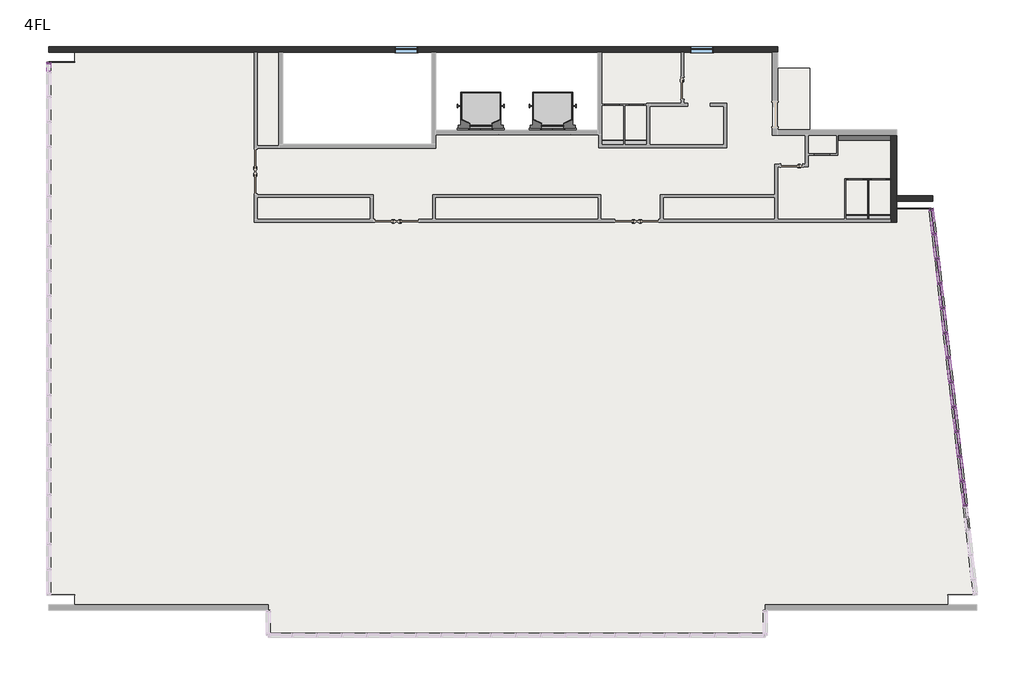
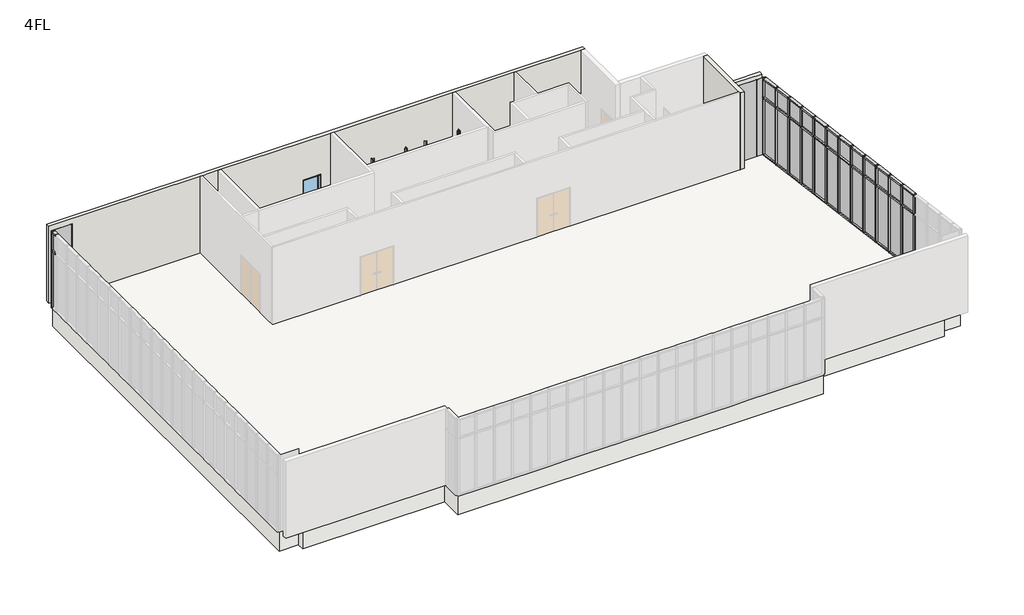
# One storey, part 4 of 4: 67 members, 28 plates, 8 proxies, 5 walls, 4 flow terminals, 2 slabs, 2 windows.
"""IFC4 building model written with IfcOpenShell, lengths in millimetres."""

from ifc_helpers import new_model, si_unit, frame, origin, place, context, project, spatial, polyline, outline, extrude, faceted_brep, transform, mapped, element, save
from components import specialty_equipment_d755c605, d150_h1500_9903e80e, w550_h2000_5054dc5e, w600_h2000_381ad4ff, flow_terminal_205c4ddb, member_70x150_cdd4dcf9, member_70x150_66cf63de, member_70x150_26475b18, member_70x150_ad4265bc, member_70x150_1b280ac3, member_70x150_76429c73, member_70x150_a15bb337, member_70x150_da24903b, plate_d1366ea1, plate_ab860a3c, plate_97be90fd, plate_28587fd3, plate_396bcf3c, w800_h1100_2b598eca

model = new_model("IFC4")

# Units and contexts
model_context = context("Model", 3, world=origin())
ifc_project = project(units=[si_unit("LENGTHUNIT", "METRE", prefix="MILLI")], contexts=[model_context])

# Site, building, storey
site = spatial("IfcSite", under=ifc_project)
building = spatial("IfcBuilding", under=site)
storey = spatial("IfcBuildingStorey", under=building, Name="4FL", Elevation=12600.0)

# Proxies
placement = place(None, origin())
specialty_equipment_shape = specialty_equipment_d755c605(model_context)
element("IfcBuildingElementProxy", 1, Name="エレベーター : 9人乗", ObjectType="エレベーター : 9人乗", at=placement, inside=storey, context=model_context, shape_type="MappedRepresentation", body=[
    mapped(specialty_equipment_shape, transform((-11220.9784025, 13649.6868987, 12600.0), x_axis=(1.0, 0.0, 0.0), y_axis=(0.0, 1.0, 0.0), z_axis=(0.0, 0.0, 1.0))),
])
element("IfcBuildingElementProxy", 2, Name="エレベーター : 9人乗", ObjectType="エレベーター : 9人乗", at=placement, inside=storey, context=model_context, shape_type="MappedRepresentation", body=[
    mapped(specialty_equipment_shape, transform((-13820.9784025, 13649.6868987, 12600.0), x_axis=(1.0, 0.0, 0.0), y_axis=(0.0, 1.0, 0.0), z_axis=(0.0, 0.0, 1.0))),
])
d150_h1500_shape = d150_h1500_9903e80e(model_context)
element("IfcBuildingElementProxy", 3, Name="r ライニング : D150 H1500", ObjectType="r ライニング : D150 H1500", at=placement, inside=storey, context=model_context, shape_type="MappedRepresentation", body=[
    mapped(d150_h1500_shape, transform((-736.1600971, 13521.6596024, 12600.0), x_axis=(1.0, 0.0, 0.0), y_axis=(0.0, 1.0, 0.0), z_axis=(0.0, 0.0, 1.0))),
])
w550_h2000_shape = w550_h2000_5054dc5e(model_context)
element("IfcBuildingElementProxy", 4, Name="r トイレブース扉 : W550 H2000", ObjectType="r トイレブース扉 : W550 H2000", at=placement, inside=storey, context=model_context, shape_type="MappedRepresentation", body=[
    mapped(w550_h2000_shape, transform((-8823.4784025, 14649.6868987, 12600.0), x_axis=(-1.0, 0.0, 0.0), y_axis=(0.0, -1.0, 0.0), z_axis=(0.0, 0.0, 1.0))),
])
element("IfcBuildingElementProxy", 5, Name="r トイレブース扉 : W550 H2000", ObjectType="r トイレブース扉 : W550 H2000", at=placement, inside=storey, context=model_context, shape_type="MappedRepresentation", body=[
    mapped(w550_h2000_shape, transform((-7940.9784025, 14649.6868987, 12600.0), x_axis=(-1.0, 0.0, 0.0), y_axis=(0.0, -1.0, 0.0), z_axis=(0.0, 0.0, 1.0))),
])
element("IfcBuildingElementProxy", 6, Name="r トイレブース扉 : W550 H2000", ObjectType="r トイレブース扉 : W550 H2000", at=placement, inside=storey, context=model_context, shape_type="MappedRepresentation", body=[
    mapped(w550_h2000_shape, transform((-5.9784025, 11949.6868987, 12600.0), x_axis=(-1.0, 0.0, 0.0), y_axis=(0.0, -1.0, 0.0), z_axis=(0.0, 0.0, 1.0))),
])
element("IfcBuildingElementProxy", 7, Name="r トイレブース扉 : W550 H2000", ObjectType="r トイレブース扉 : W550 H2000", at=placement, inside=storey, context=model_context, shape_type="MappedRepresentation", body=[
    mapped(w550_h2000_shape, transform((834.0215975, 11949.6868987, 12600.0), x_axis=(-1.0, 0.0, 0.0), y_axis=(0.0, -1.0, 0.0), z_axis=(0.0, 0.0, 1.0))),
])
w600_h2000_shape = w600_h2000_381ad4ff(model_context)
element("IfcBuildingElementProxy", 8, Name="r トイレブース扉 : W600 H2000", ObjectType="r トイレブース扉 : W600 H2000", at=placement, inside=storey, context=model_context, shape_type="MappedRepresentation", body=[
    mapped(w600_h2000_shape, transform((-1220.9784025, 12849.6868987, 12600.0), x_axis=(-1.0, 0.0, 0.0), y_axis=(0.0, -1.0, 0.0), z_axis=(0.0, 0.0, 1.0))),
])

# Flow terminals
flow_terminal_shape = flow_terminal_205c4ddb(model_context)
element("IfcFlowTerminal", 9, ObjectType="洋式便器 - ライニング付 - 2D : タイプ 1", at=placement, inside=storey, context=model_context, shape_type="MappedRepresentation", body=[
    mapped(flow_terminal_shape, transform((-9045.9784025, 13149.6868987, 12600.0), x_axis=(1.0, 0.0, 0.0), y_axis=(0.0, 1.0, 0.0), z_axis=(0.0, 0.0, 1.0))),
])
element("IfcFlowTerminal", 10, ObjectType="洋式便器 - ライニング付 - 2D : タイプ 1", at=placement, inside=storey, context=model_context, shape_type="MappedRepresentation", body=[
    mapped(flow_terminal_shape, transform((-8205.9784025, 13149.6868987, 12600.0), x_axis=(1.0, 0.0, 0.0), y_axis=(0.0, 1.0, 0.0), z_axis=(0.0, 0.0, 1.0))),
])
element("IfcFlowTerminal", 11, ObjectType="洋式便器 - ライニング付 - 2D : タイプ 1", at=placement, inside=storey, context=model_context, shape_type="MappedRepresentation", body=[
    mapped(flow_terminal_shape, transform((-210.9784025, 10449.6868987, 12600.0), x_axis=(1.0, 0.0, 0.0), y_axis=(0.0, 1.0, 0.0), z_axis=(0.0, 0.0, 1.0))),
])
element("IfcFlowTerminal", 12, ObjectType="洋式便器 - ライニング付 - 2D : タイプ 1", at=placement, inside=storey, context=model_context, shape_type="MappedRepresentation", body=[
    mapped(flow_terminal_shape, transform((629.0215975, 10449.6868987, 12600.0), x_axis=(1.0, 0.0, 0.0), y_axis=(0.0, 1.0, 0.0), z_axis=(0.0, 0.0, 1.0))),
])

# Members
member_70x150_shape = member_70x150_cdd4dcf9(model_context)
element("IfcMember", 13, ObjectType="長方形のマリオン : 70x150", at=placement, inside=storey, context=model_context, shape_type="MappedRepresentation", body=[
    mapped(member_70x150_shape, transform((3840.8083387, 134.7603905, 12600.0), x_axis=(0.11354659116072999, -0.9935326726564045, 0.0), y_axis=(-0.9935326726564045, -0.11354659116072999, 0.0), z_axis=(0.0, 0.0, -1.0))),
])
element("IfcMember", 14, ObjectType="長方形のマリオン : 70x150", at=placement, inside=storey, context=model_context, shape_type="MappedRepresentation", body=[
    mapped(member_70x150_shape, transform((3738.6164066, 1028.9397959, 12600.0), x_axis=(0.11354659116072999, -0.9935326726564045, 0.0), y_axis=(-0.9935326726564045, -0.11354659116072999, 0.0), z_axis=(0.0, 0.0, -1.0))),
])
element("IfcMember", 15, ObjectType="長方形のマリオン : 70x150", at=placement, inside=storey, context=model_context, shape_type="MappedRepresentation", body=[
    mapped(member_70x150_shape, transform((3636.4244746, 1923.1192013, 12600.0), x_axis=(0.11354659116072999, -0.9935326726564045, 0.0), y_axis=(-0.9935326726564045, -0.11354659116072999, 0.0), z_axis=(0.0, 0.0, -1.0))),
])
element("IfcMember", 16, ObjectType="長方形のマリオン : 70x150", at=placement, inside=storey, context=model_context, shape_type="MappedRepresentation", body=[
    mapped(member_70x150_shape, transform((3534.2325425, 2817.2986066, 12600.0), x_axis=(0.11354659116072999, -0.9935326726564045, 0.0), y_axis=(-0.9935326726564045, -0.11354659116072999, 0.0), z_axis=(0.0, 0.0, -1.0))),
])
element("IfcMember", 17, ObjectType="長方形のマリオン : 70x150", at=placement, inside=storey, context=model_context, shape_type="MappedRepresentation", body=[
    mapped(member_70x150_shape, transform((3432.0406105, 3711.478012, 12600.0), x_axis=(0.11354659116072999, -0.9935326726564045, 0.0), y_axis=(-0.9935326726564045, -0.11354659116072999, 0.0), z_axis=(0.0, 0.0, -1.0))),
])
element("IfcMember", 18, ObjectType="長方形のマリオン : 70x150", at=placement, inside=storey, context=model_context, shape_type="MappedRepresentation", body=[
    mapped(member_70x150_shape, transform((3329.8486784, 4605.6574174, 12600.0), x_axis=(0.11354659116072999, -0.9935326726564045, 0.0), y_axis=(-0.9935326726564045, -0.11354659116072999, 0.0), z_axis=(0.0, 0.0, -1.0))),
])
element("IfcMember", 19, ObjectType="長方形のマリオン : 70x150", at=placement, inside=storey, context=model_context, shape_type="MappedRepresentation", body=[
    mapped(member_70x150_shape, transform((3227.6567464, 5499.8368228, 12600.0), x_axis=(0.11354659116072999, -0.9935326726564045, 0.0), y_axis=(-0.9935326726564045, -0.11354659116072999, 0.0), z_axis=(0.0, 0.0, -1.0))),
])
element("IfcMember", 20, ObjectType="長方形のマリオン : 70x150", at=placement, inside=storey, context=model_context, shape_type="MappedRepresentation", body=[
    mapped(member_70x150_shape, transform((3125.4648143, 6394.0162282, 12600.0), x_axis=(0.11354659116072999, -0.9935326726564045, 0.0), y_axis=(-0.9935326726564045, -0.11354659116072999, 0.0), z_axis=(0.0, 0.0, -1.0))),
])
element("IfcMember", 21, ObjectType="長方形のマリオン : 70x150", at=placement, inside=storey, context=model_context, shape_type="MappedRepresentation", body=[
    mapped(member_70x150_shape, transform((3023.2728823, 7288.1956336, 12600.0), x_axis=(0.11354659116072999, -0.9935326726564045, 0.0), y_axis=(-0.9935326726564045, -0.11354659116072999, 0.0), z_axis=(0.0, 0.0, -1.0))),
])
element("IfcMember", 22, ObjectType="長方形のマリオン : 70x150", at=placement, inside=storey, context=model_context, shape_type="MappedRepresentation", body=[
    mapped(member_70x150_shape, transform((2921.0809503, 8182.375039, 12600.0), x_axis=(0.11354659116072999, -0.9935326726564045, 0.0), y_axis=(-0.9935326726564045, -0.11354659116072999, 0.0), z_axis=(0.0, 0.0, -1.0))),
])
element("IfcMember", 23, ObjectType="長方形のマリオン : 70x150", at=placement, inside=storey, context=model_context, shape_type="MappedRepresentation", body=[
    mapped(member_70x150_shape, transform((2818.8890182, 9076.5544444, 12600.0), x_axis=(0.11354659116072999, -0.9935326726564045, 0.0), y_axis=(-0.9935326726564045, -0.11354659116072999, 0.0), z_axis=(0.0, 0.0, -1.0))),
])
element("IfcMember", 24, ObjectType="長方形のマリオン : 70x150", at=placement, inside=storey, context=model_context, shape_type="MappedRepresentation", body=[
    mapped(member_70x150_shape, transform((2716.6970862, 9970.7338498, 12600.0), x_axis=(0.11354659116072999, -0.9935326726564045, 0.0), y_axis=(-0.9935326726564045, -0.11354659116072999, 0.0), z_axis=(0.0, 0.0, -1.0))),
])
member_70x150_2_shape = member_70x150_66cf63de(model_context)
element("IfcMember", 25, ObjectType="長方形のマリオン : 70x150", at=placement, inside=storey, context=model_context, shape_type="MappedRepresentation", body=[
    mapped(member_70x150_2_shape, transform((2618.4792848, 10830.1396116, 12600.0), x_axis=(0.0, 0.0, -1.0), y_axis=(-0.9935326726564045, -0.11354659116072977, 0.0), z_axis=(-0.11354659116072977, 0.9935326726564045, 0.0))),
])
element("IfcMember", 26, ObjectType="長方形のマリオン : 70x150", at=placement, inside=storey, context=model_context, shape_type="MappedRepresentation", body=[
    mapped(member_70x150_2_shape, transform((3844.7824693, 99.9867469, 12600.0), x_axis=(0.0, 0.0, -1.0), y_axis=(-0.9935326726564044, -0.11354659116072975, 0.0), z_axis=(-0.11354659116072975, 0.9935326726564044, 0.0))),
])
element("IfcMember", 27, ObjectType="長方形のマリオン : 70x150", at=placement, inside=storey, context=model_context, shape_type="MappedRepresentation", body=[
    mapped(member_70x150_2_shape, transform((3742.5905373, 994.1661523, 12600.0), x_axis=(0.0, 0.0, -1.0), y_axis=(-0.9935326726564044, -0.1135465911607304, 0.0), z_axis=(-0.11354659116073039, 0.9935326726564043, 0.0))),
])
element("IfcMember", 28, ObjectType="長方形のマリオン : 70x150", at=placement, inside=storey, context=model_context, shape_type="MappedRepresentation", body=[
    mapped(member_70x150_2_shape, transform((3640.3986053, 1888.3455577, 12600.0), x_axis=(0.0, 0.0, -1.0), y_axis=(-0.9935326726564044, -0.1135465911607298, 0.0), z_axis=(-0.1135465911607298, 0.9935326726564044, 0.0))),
])
element("IfcMember", 29, ObjectType="長方形のマリオン : 70x150", at=placement, inside=storey, context=model_context, shape_type="MappedRepresentation", body=[
    mapped(member_70x150_2_shape, transform((3538.2066732, 2782.5249631, 12600.0), x_axis=(0.0, 0.0, -1.0), y_axis=(-0.9935326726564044, -0.1135465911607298, 0.0), z_axis=(-0.1135465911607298, 0.9935326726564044, 0.0))),
])
element("IfcMember", 30, ObjectType="長方形のマリオン : 70x150", at=placement, inside=storey, context=model_context, shape_type="MappedRepresentation", body=[
    mapped(member_70x150_2_shape, transform((3436.0147412, 3676.7043685, 12600.0), x_axis=(0.0, 0.0, -1.0), y_axis=(-0.9935326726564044, -0.11354659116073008, 0.0), z_axis=(-0.11354659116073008, 0.9935326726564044, 0.0))),
])
element("IfcMember", 31, ObjectType="長方形のマリオン : 70x150", at=placement, inside=storey, context=model_context, shape_type="MappedRepresentation", body=[
    mapped(member_70x150_2_shape, transform((3333.8228091, 4570.8837739, 12600.0), x_axis=(0.0, 0.0, -1.0), y_axis=(-0.9935326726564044, -0.11354659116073, 0.0), z_axis=(-0.11354659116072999, 0.9935326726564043, 0.0))),
])
element("IfcMember", 32, ObjectType="長方形のマリオン : 70x150", at=placement, inside=storey, context=model_context, shape_type="MappedRepresentation", body=[
    mapped(member_70x150_2_shape, transform((3231.6308771, 5465.0631793, 12600.0), x_axis=(0.0, 0.0, -1.0), y_axis=(-0.9935326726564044, -0.11354659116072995, 0.0), z_axis=(-0.11354659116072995, 0.9935326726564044, 0.0))),
])
element("IfcMember", 33, ObjectType="長方形のマリオン : 70x150", at=placement, inside=storey, context=model_context, shape_type="MappedRepresentation", body=[
    mapped(member_70x150_2_shape, transform((3129.438945, 6359.2425847, 12600.0), x_axis=(0.0, 0.0, -1.0), y_axis=(-0.9935326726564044, -0.11354659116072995, 0.0), z_axis=(-0.11354659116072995, 0.9935326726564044, 0.0))),
])
element("IfcMember", 34, ObjectType="長方形のマリオン : 70x150", at=placement, inside=storey, context=model_context, shape_type="MappedRepresentation", body=[
    mapped(member_70x150_2_shape, transform((3027.247013, 7253.4219901, 12600.0), x_axis=(0.0, 0.0, -1.0), y_axis=(-0.9935326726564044, -0.11354659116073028, 0.0), z_axis=(-0.11354659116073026, 0.9935326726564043, 0.0))),
])
element("IfcMember", 35, ObjectType="長方形のマリオン : 70x150", at=placement, inside=storey, context=model_context, shape_type="MappedRepresentation", body=[
    mapped(member_70x150_2_shape, transform((2925.0550809, 8147.6013954, 12600.0), x_axis=(0.0, 0.0, -1.0), y_axis=(-0.9935326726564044, -0.1135465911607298, 0.0), z_axis=(-0.1135465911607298, 0.9935326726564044, 0.0))),
])
element("IfcMember", 36, ObjectType="長方形のマリオン : 70x150", at=placement, inside=storey, context=model_context, shape_type="MappedRepresentation", body=[
    mapped(member_70x150_2_shape, transform((2822.8631489, 9041.7808008, 12600.0), x_axis=(0.0, 0.0, -1.0), y_axis=(-0.9935326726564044, -0.11354659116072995, 0.0), z_axis=(-0.11354659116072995, 0.9935326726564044, 0.0))),
])
element("IfcMember", 37, ObjectType="長方形のマリオン : 70x150", at=placement, inside=storey, context=model_context, shape_type="MappedRepresentation", body=[
    mapped(member_70x150_2_shape, transform((2720.6712169, 9935.9602062, 12600.0), x_axis=(0.0, 0.0, -1.0), y_axis=(-0.9935326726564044, -0.11354659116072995, 0.0), z_axis=(-0.11354659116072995, 0.9935326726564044, 0.0))),
])
element("IfcMember", 38, ObjectType="長方形のマリオン : 70x150", at=placement, inside=storey, context=model_context, shape_type="MappedRepresentation", body=[
    mapped(member_70x150_2_shape, transform((3836.834208, 169.534034, 16600.0), x_axis=(0.0, 0.0, 1.0), y_axis=(-0.9935326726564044, -0.11354659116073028, 0.0), z_axis=(0.11354659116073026, -0.9935326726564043, 0.0))),
])
element("IfcMember", 39, ObjectType="長方形のマリオン : 70x150", at=placement, inside=storey, context=model_context, shape_type="MappedRepresentation", body=[
    mapped(member_70x150_2_shape, transform((3734.6422759, 1063.7134394, 16600.0), x_axis=(0.0, 0.0, 1.0), y_axis=(-0.9935326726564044, -0.11354659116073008, 0.0), z_axis=(0.11354659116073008, -0.9935326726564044, 0.0))),
])
element("IfcMember", 40, ObjectType="長方形のマリオン : 70x150", at=placement, inside=storey, context=model_context, shape_type="MappedRepresentation", body=[
    mapped(member_70x150_2_shape, transform((3632.4503439, 1957.8928448, 16600.0), x_axis=(0.0, 0.0, 1.0), y_axis=(-0.9935326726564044, -0.11354659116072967, 0.0), z_axis=(0.11354659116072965, -0.9935326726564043, 0.0))),
])
element("IfcMember", 41, ObjectType="長方形のマリオン : 70x150", at=placement, inside=storey, context=model_context, shape_type="MappedRepresentation", body=[
    mapped(member_70x150_2_shape, transform((3530.2584118, 2852.0722502, 16600.0), x_axis=(0.0, 0.0, 1.0), y_axis=(-0.9935326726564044, -0.11354659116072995, 0.0), z_axis=(0.11354659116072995, -0.9935326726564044, 0.0))),
])
element("IfcMember", 42, ObjectType="長方形のマリオン : 70x150", at=placement, inside=storey, context=model_context, shape_type="MappedRepresentation", body=[
    mapped(member_70x150_2_shape, transform((3428.0664798, 3746.2516556, 16600.0), x_axis=(0.0, 0.0, 1.0), y_axis=(-0.9935326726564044, -0.11354659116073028, 0.0), z_axis=(0.11354659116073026, -0.9935326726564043, 0.0))),
])
element("IfcMember", 43, ObjectType="長方形のマリオン : 70x150", at=placement, inside=storey, context=model_context, shape_type="MappedRepresentation", body=[
    mapped(member_70x150_2_shape, transform((3325.8745477, 4640.431061, 16600.0), x_axis=(0.0, 0.0, 1.0), y_axis=(-0.9935326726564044, -0.11354659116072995, 0.0), z_axis=(0.11354659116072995, -0.9935326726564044, 0.0))),
])
element("IfcMember", 44, ObjectType="長方形のマリオン : 70x150", at=placement, inside=storey, context=model_context, shape_type="MappedRepresentation", body=[
    mapped(member_70x150_2_shape, transform((3223.6826157, 5534.6104664, 16600.0), x_axis=(0.0, 0.0, 1.0), y_axis=(-0.9935326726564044, -0.11354659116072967, 0.0), z_axis=(0.11354659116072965, -0.9935326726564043, 0.0))),
])
element("IfcMember", 45, ObjectType="長方形のマリオン : 70x150", at=placement, inside=storey, context=model_context, shape_type="MappedRepresentation", body=[
    mapped(member_70x150_2_shape, transform((3121.4906836, 6428.7898717, 16600.0), x_axis=(0.0, 0.0, 1.0), y_axis=(-0.9935326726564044, -0.1135465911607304, 0.0), z_axis=(0.11354659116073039, -0.9935326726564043, 0.0))),
])
element("IfcMember", 46, ObjectType="長方形のマリオン : 70x150", at=placement, inside=storey, context=model_context, shape_type="MappedRepresentation", body=[
    mapped(member_70x150_2_shape, transform((3019.2987516, 7322.9692771, 16600.0), x_axis=(0.0, 0.0, 1.0), y_axis=(-0.9935326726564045, -0.11354659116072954, 0.0), z_axis=(0.11354659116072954, -0.9935326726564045, 0.0))),
])
element("IfcMember", 47, ObjectType="長方形のマリオン : 70x150", at=placement, inside=storey, context=model_context, shape_type="MappedRepresentation", body=[
    mapped(member_70x150_2_shape, transform((2917.1068196, 8217.1486825, 16600.0), x_axis=(0.0, 0.0, 1.0), y_axis=(-0.9935326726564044, -0.11354659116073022, 0.0), z_axis=(0.11354659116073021, -0.9935326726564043, 0.0))),
])
element("IfcMember", 48, ObjectType="長方形のマリオン : 70x150", at=placement, inside=storey, context=model_context, shape_type="MappedRepresentation", body=[
    mapped(member_70x150_2_shape, transform((2814.9148875, 9111.3280879, 16600.0), x_axis=(0.0, 0.0, 1.0), y_axis=(-0.9935326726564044, -0.11354659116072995, 0.0), z_axis=(0.11354659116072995, -0.9935326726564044, 0.0))),
])
element("IfcMember", 49, ObjectType="長方形のマリオン : 70x150", at=placement, inside=storey, context=model_context, shape_type="MappedRepresentation", body=[
    mapped(member_70x150_2_shape, transform((2712.7229555, 10005.5074933, 16600.0), x_axis=(0.0, 0.0, 1.0), y_axis=(-0.9935326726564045, -0.11354659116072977, 0.0), z_axis=(0.11354659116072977, -0.9935326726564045, 0.0))),
])
member_70x150_3_shape = member_70x150_26475b18(model_context)
element("IfcMember", 50, ObjectType="長方形のマリオン : 70x150", at=placement, inside=storey, context=model_context, shape_type="MappedRepresentation", body=[
    mapped(member_70x150_3_shape, transform((3534.2325425, 2817.2986066, 15600.0), x_axis=(0.11354659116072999, -0.9935326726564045, 0.0), y_axis=(-0.9935326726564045, -0.11354659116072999, 0.0), z_axis=(0.0, 0.0, -1.0))),
])
element("IfcMember", 51, ObjectType="長方形のマリオン : 70x150", at=placement, inside=storey, context=model_context, shape_type="MappedRepresentation", body=[
    mapped(member_70x150_3_shape, transform((3636.4244746, 1923.1192013, 15600.0), x_axis=(0.11354659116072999, -0.9935326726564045, 0.0), y_axis=(-0.9935326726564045, -0.11354659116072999, 0.0), z_axis=(0.0, 0.0, -1.0))),
])
element("IfcMember", 52, ObjectType="長方形のマリオン : 70x150", at=placement, inside=storey, context=model_context, shape_type="MappedRepresentation", body=[
    mapped(member_70x150_3_shape, transform((3738.6164066, 1028.9397959, 15600.0), x_axis=(0.11354659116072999, -0.9935326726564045, 0.0), y_axis=(-0.9935326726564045, -0.11354659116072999, 0.0), z_axis=(0.0, 0.0, -1.0))),
])
element("IfcMember", 53, ObjectType="長方形のマリオン : 70x150", at=placement, inside=storey, context=model_context, shape_type="MappedRepresentation", body=[
    mapped(member_70x150_3_shape, transform((3840.8083387, 134.7603905, 15600.0), x_axis=(0.11354659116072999, -0.9935326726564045, 0.0), y_axis=(-0.9935326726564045, -0.11354659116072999, 0.0), z_axis=(0.0, 0.0, -1.0))),
])
element("IfcMember", 54, ObjectType="長方形のマリオン : 70x150", at=placement, inside=storey, context=model_context, shape_type="MappedRepresentation", body=[
    mapped(member_70x150_3_shape, transform((3432.0406105, 3711.478012, 15600.0), x_axis=(0.11354659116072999, -0.9935326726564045, 0.0), y_axis=(-0.9935326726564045, -0.11354659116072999, 0.0), z_axis=(0.0, 0.0, -1.0))),
])
element("IfcMember", 55, ObjectType="長方形のマリオン : 70x150", at=placement, inside=storey, context=model_context, shape_type="MappedRepresentation", body=[
    mapped(member_70x150_3_shape, transform((3329.8486784, 4605.6574174, 15600.0), x_axis=(0.11354659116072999, -0.9935326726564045, 0.0), y_axis=(-0.9935326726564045, -0.11354659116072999, 0.0), z_axis=(0.0, 0.0, -1.0))),
])
element("IfcMember", 56, ObjectType="長方形のマリオン : 70x150", at=placement, inside=storey, context=model_context, shape_type="MappedRepresentation", body=[
    mapped(member_70x150_3_shape, transform((3227.6567464, 5499.8368228, 15600.0), x_axis=(0.11354659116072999, -0.9935326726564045, 0.0), y_axis=(-0.9935326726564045, -0.11354659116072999, 0.0), z_axis=(0.0, 0.0, -1.0))),
])
element("IfcMember", 57, ObjectType="長方形のマリオン : 70x150", at=placement, inside=storey, context=model_context, shape_type="MappedRepresentation", body=[
    mapped(member_70x150_3_shape, transform((3125.4648143, 6394.0162282, 15600.0), x_axis=(0.11354659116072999, -0.9935326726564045, 0.0), y_axis=(-0.9935326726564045, -0.11354659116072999, 0.0), z_axis=(0.0, 0.0, -1.0))),
])
element("IfcMember", 58, ObjectType="長方形のマリオン : 70x150", at=placement, inside=storey, context=model_context, shape_type="MappedRepresentation", body=[
    mapped(member_70x150_3_shape, transform((3023.2728823, 7288.1956336, 15600.0), x_axis=(0.11354659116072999, -0.9935326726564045, 0.0), y_axis=(-0.9935326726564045, -0.11354659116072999, 0.0), z_axis=(0.0, 0.0, -1.0))),
])
element("IfcMember", 59, ObjectType="長方形のマリオン : 70x150", at=placement, inside=storey, context=model_context, shape_type="MappedRepresentation", body=[
    mapped(member_70x150_3_shape, transform((2921.0809503, 8182.375039, 15600.0), x_axis=(0.11354659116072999, -0.9935326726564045, 0.0), y_axis=(-0.9935326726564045, -0.11354659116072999, 0.0), z_axis=(0.0, 0.0, -1.0))),
])
element("IfcMember", 60, ObjectType="長方形のマリオン : 70x150", at=placement, inside=storey, context=model_context, shape_type="MappedRepresentation", body=[
    mapped(member_70x150_3_shape, transform((2818.8890182, 9076.5544444, 15600.0), x_axis=(0.11354659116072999, -0.9935326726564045, 0.0), y_axis=(-0.9935326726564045, -0.11354659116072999, 0.0), z_axis=(0.0, 0.0, -1.0))),
])
element("IfcMember", 61, ObjectType="長方形のマリオン : 70x150", at=placement, inside=storey, context=model_context, shape_type="MappedRepresentation", body=[
    mapped(member_70x150_3_shape, transform((2716.6970862, 9970.7338498, 15600.0), x_axis=(0.11354659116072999, -0.9935326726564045, 0.0), y_axis=(-0.9935326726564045, -0.11354659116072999, 0.0), z_axis=(0.0, 0.0, -1.0))),
])
member_70x150_4_shape = member_70x150_ad4265bc(model_context)
element("IfcMember", 62, ObjectType="長方形のマリオン : 70x150", at=placement, inside=storey, context=model_context, shape_type="MappedRepresentation", body=[
    mapped(member_70x150_4_shape, transform((3223.6826157, 5534.6104664, 15600.0), x_axis=(0.0, 0.0, 1.0), y_axis=(-0.9935326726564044, -0.11354659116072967, 0.0), z_axis=(0.11354659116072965, -0.9935326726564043, 0.0))),
])
element("IfcMember", 63, ObjectType="長方形のマリオン : 70x150", at=placement, inside=storey, context=model_context, shape_type="MappedRepresentation", body=[
    mapped(member_70x150_4_shape, transform((3121.4906836, 6428.7898717, 15600.0), x_axis=(0.0, 0.0, 1.0), y_axis=(-0.9935326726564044, -0.1135465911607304, 0.0), z_axis=(0.11354659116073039, -0.9935326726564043, 0.0))),
])
element("IfcMember", 64, ObjectType="長方形のマリオン : 70x150", at=placement, inside=storey, context=model_context, shape_type="MappedRepresentation", body=[
    mapped(member_70x150_4_shape, transform((3019.2987516, 7322.9692771, 15600.0), x_axis=(0.0, 0.0, 1.0), y_axis=(-0.9935326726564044, -0.11354659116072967, 0.0), z_axis=(0.11354659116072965, -0.9935326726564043, 0.0))),
])
element("IfcMember", 65, ObjectType="長方形のマリオン : 70x150", at=placement, inside=storey, context=model_context, shape_type="MappedRepresentation", body=[
    mapped(member_70x150_4_shape, transform((2917.1068196, 8217.1486825, 15600.0), x_axis=(0.0, 0.0, 1.0), y_axis=(-0.9935326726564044, -0.11354659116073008, 0.0), z_axis=(0.11354659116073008, -0.9935326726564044, 0.0))),
])
element("IfcMember", 66, ObjectType="長方形のマリオン : 70x150", at=placement, inside=storey, context=model_context, shape_type="MappedRepresentation", body=[
    mapped(member_70x150_4_shape, transform((2814.9148875, 9111.3280879, 15600.0), x_axis=(0.0, 0.0, 1.0), y_axis=(-0.9935326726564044, -0.11354659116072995, 0.0), z_axis=(0.11354659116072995, -0.9935326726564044, 0.0))),
])
element("IfcMember", 67, ObjectType="長方形のマリオン : 70x150", at=placement, inside=storey, context=model_context, shape_type="MappedRepresentation", body=[
    mapped(member_70x150_4_shape, transform((2712.7229555, 10005.5074933, 15600.0), x_axis=(0.0, 0.0, 1.0), y_axis=(-0.9935326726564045, -0.11354659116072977, 0.0), z_axis=(0.11354659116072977, -0.9935326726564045, 0.0))),
])
element("IfcMember", 68, ObjectType="長方形のマリオン : 70x150", at=placement, inside=storey, context=model_context, shape_type="MappedRepresentation", body=[
    mapped(member_70x150_4_shape, transform((3836.834208, 169.534034, 15600.0), x_axis=(0.0, 0.0, 1.0), y_axis=(-0.9935326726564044, -0.11354659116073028, 0.0), z_axis=(0.11354659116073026, -0.9935326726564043, 0.0))),
])
element("IfcMember", 69, ObjectType="長方形のマリオン : 70x150", at=placement, inside=storey, context=model_context, shape_type="MappedRepresentation", body=[
    mapped(member_70x150_4_shape, transform((3734.6422759, 1063.7134394, 15600.0), x_axis=(0.0, 0.0, 1.0), y_axis=(-0.9935326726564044, -0.11354659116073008, 0.0), z_axis=(0.11354659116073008, -0.9935326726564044, 0.0))),
])
element("IfcMember", 70, ObjectType="長方形のマリオン : 70x150", at=placement, inside=storey, context=model_context, shape_type="MappedRepresentation", body=[
    mapped(member_70x150_4_shape, transform((3632.4503439, 1957.8928448, 15600.0), x_axis=(0.0, 0.0, 1.0), y_axis=(-0.9935326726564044, -0.11354659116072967, 0.0), z_axis=(0.11354659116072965, -0.9935326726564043, 0.0))),
])
element("IfcMember", 71, ObjectType="長方形のマリオン : 70x150", at=placement, inside=storey, context=model_context, shape_type="MappedRepresentation", body=[
    mapped(member_70x150_4_shape, transform((3530.2584118, 2852.0722502, 15600.0), x_axis=(0.0, 0.0, 1.0), y_axis=(-0.9935326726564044, -0.11354659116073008, 0.0), z_axis=(0.11354659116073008, -0.9935326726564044, 0.0))),
])
element("IfcMember", 72, ObjectType="長方形のマリオン : 70x150", at=placement, inside=storey, context=model_context, shape_type="MappedRepresentation", body=[
    mapped(member_70x150_4_shape, transform((3428.0664798, 3746.2516556, 15600.0), x_axis=(0.0, 0.0, 1.0), y_axis=(-0.9935326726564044, -0.11354659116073, 0.0), z_axis=(0.11354659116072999, -0.9935326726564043, 0.0))),
])
element("IfcMember", 73, ObjectType="長方形のマリオン : 70x150", at=placement, inside=storey, context=model_context, shape_type="MappedRepresentation", body=[
    mapped(member_70x150_4_shape, transform((3325.8745477, 4640.431061, 15600.0), x_axis=(0.0, 0.0, 1.0), y_axis=(-0.9935326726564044, -0.11354659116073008, 0.0), z_axis=(0.11354659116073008, -0.9935326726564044, 0.0))),
])
member_70x150_5_shape = member_70x150_1b280ac3(model_context)
element("IfcMember", 74, ObjectType="長方形のマリオン : 70x150", at=placement, inside=storey, context=model_context, shape_type="MappedRepresentation", body=[
    mapped(member_70x150_5_shape, transform((-29345.9784025, 16199.6868987, 12600.0), x_axis=(0.0, 1.0, 0.0), y_axis=(1.0, 0.0, 0.0), z_axis=(0.0, 0.0, -1.0))),
])
member_70x150_6_shape = member_70x150_76429c73(model_context)
element("IfcMember", 75, ObjectType="長方形のマリオン : 70x150", at=placement, inside=storey, context=model_context, shape_type="MappedRepresentation", body=[
    mapped(member_70x150_6_shape, transform((2610.5310234, 10899.6868987, 16600.0), x_axis=(-0.11354659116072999, 0.9935326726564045, 0.0), y_axis=(-0.9935326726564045, -0.11354659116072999, 0.0), z_axis=(0.0, 0.0, 1.0))),
])
element("IfcMember", 76, ObjectType="長方形のマリオン : 70x150", at=placement, inside=storey, context=model_context, shape_type="MappedRepresentation", body=[
    mapped(member_70x150_6_shape, transform((-29345.9784025, 16199.6868987, 15600.0), x_axis=(0.0, 1.0, 0.0), y_axis=(1.0, 0.0, 0.0), z_axis=(0.0, 0.0, -1.0))),
])
element("IfcMember", 77, ObjectType="長方形のマリオン : 70x150", at=placement, inside=storey, context=model_context, shape_type="MappedRepresentation", body=[
    mapped(member_70x150_5_shape, transform((2610.5310234, 10899.6868987, 15600.0), x_axis=(-0.11354659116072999, 0.9935326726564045, 0.0), y_axis=(-0.9935326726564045, -0.11354659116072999, 0.0), z_axis=(0.0, 0.0, 1.0))),
])
member_70x150_7_shape = member_70x150_a15bb337(model_context)
element("IfcMember", 78, ObjectType="長方形のマリオン : 70x150", at=placement, inside=storey, context=model_context, shape_type="MappedRepresentation", body=[
    mapped(member_70x150_7_shape, transform((-29345.9784025, 16129.6868987, 16600.0), x_axis=(0.0, 0.0, 1.0), y_axis=(1.0, 0.0, 0.0), z_axis=(0.0, 1.0, 0.0))),
])
member_70x150_8_shape = member_70x150_da24903b(model_context)
element("IfcMember", 79, ObjectType="長方形のマリオン : 70x150", at=placement, inside=storey, context=model_context, shape_type="MappedRepresentation", body=[
    mapped(member_70x150_8_shape, transform((-29345.9784025, 16129.6868987, 15600.0), x_axis=(0.0, 0.0, 1.0), y_axis=(1.0, 0.0, 0.0), z_axis=(0.0, 1.0, 0.0))),
])

# Plates
plate_shape = plate_d1366ea1(model_context)
element("IfcPlate", 80, ObjectType="システム パネル : 標準", at=placement, inside=storey, context=model_context, shape_type="MappedRepresentation", body=[
    mapped(plate_shape, transform((1804.0215975, 10899.6868987, 12600.0), x_axis=(1.0, 0.0, 0.0), y_axis=(0.0, 1.0, 0.0), z_axis=(0.0, 0.0, 1.0))),
])
element("IfcPlate", 81, ObjectType="システム パネル : 標準", at=placement, inside=storey, context=model_context, shape_type="MappedRepresentation", body=[
    mapped(plate_shape, transform((-28895.9784025, 16199.6868987, 12600.0), x_axis=(1.0, 0.0, 0.0), y_axis=(0.0, 1.0, 0.0), z_axis=(0.0, 0.0, 1.0))),
])
plate_2_shape = plate_ab860a3c(model_context)
element("IfcPlate", 82, ObjectType="システム パネル : 標準", at=placement, inside=storey, context=model_context, shape_type="MappedRepresentation", body=[
    mapped(plate_2_shape, transform((-28420.9784025, 16199.6868987, 12600.0), x_axis=(1.0, 0.0, 0.0), y_axis=(0.0, 1.0, 0.0), z_axis=(0.0, 0.0, 1.0))),
])
plate_3_shape = plate_97be90fd(model_context)
element("IfcPlate", 83, ObjectType="システム パネル : 標準", at=placement, inside=storey, context=model_context, shape_type="MappedRepresentation", body=[
    mapped(plate_3_shape, transform((2432.2763105, 10899.6868987, 12600.0), x_axis=(1.0, 0.0, 0.0), y_axis=(0.0, 1.0, 0.0), z_axis=(0.0, 0.0, 1.0))),
])
plate_4_shape = plate_28587fd3(model_context)
element("IfcPlate", 84, ObjectType="システム パネル : 標準", at=placement, inside=storey, context=model_context, shape_type="MappedRepresentation", body=[
    mapped(plate_4_shape, transform((2665.6011201, 10417.8235525, 12670.0), x_axis=(0.11354659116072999, -0.9935326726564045, 0.0), y_axis=(0.9935326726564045, 0.11354659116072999, 0.0), z_axis=(0.0, 0.0, 1.0))),
])
element("IfcPlate", 85, ObjectType="システム パネル : 標準", at=placement, inside=storey, context=model_context, shape_type="MappedRepresentation", body=[
    mapped(plate_4_shape, transform((2767.7930522, 9523.6441471, 12670.0), x_axis=(0.11354659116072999, -0.9935326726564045, 0.0), y_axis=(0.9935326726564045, 0.11354659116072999, 0.0), z_axis=(0.0, 0.0, 1.0))),
])
element("IfcPlate", 86, ObjectType="システム パネル : 標準", at=placement, inside=storey, context=model_context, shape_type="MappedRepresentation", body=[
    mapped(plate_4_shape, transform((2869.9849842, 8629.4647417, 12670.0), x_axis=(0.11354659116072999, -0.9935326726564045, 0.0), y_axis=(0.9935326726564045, 0.11354659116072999, 0.0), z_axis=(0.0, 0.0, 1.0))),
])
element("IfcPlate", 87, ObjectType="システム パネル : 標準", at=placement, inside=storey, context=model_context, shape_type="MappedRepresentation", body=[
    mapped(plate_4_shape, transform((2972.1769163, 7735.2853363, 12670.0), x_axis=(0.11354659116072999, -0.9935326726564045, 0.0), y_axis=(0.9935326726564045, 0.11354659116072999, 0.0), z_axis=(0.0, 0.0, 1.0))),
])
element("IfcPlate", 88, ObjectType="システム パネル : 標準", at=placement, inside=storey, context=model_context, shape_type="MappedRepresentation", body=[
    mapped(plate_4_shape, transform((3074.3688483, 6841.1059309, 12670.0), x_axis=(0.11354659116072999, -0.9935326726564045, 0.0), y_axis=(0.9935326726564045, 0.11354659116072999, 0.0), z_axis=(0.0, 0.0, 1.0))),
])
element("IfcPlate", 89, ObjectType="システム パネル : 標準", at=placement, inside=storey, context=model_context, shape_type="MappedRepresentation", body=[
    mapped(plate_4_shape, transform((3176.5607804, 5946.9265255, 12670.0), x_axis=(0.11354659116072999, -0.9935326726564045, 0.0), y_axis=(0.9935326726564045, 0.11354659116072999, 0.0), z_axis=(0.0, 0.0, 1.0))),
])
element("IfcPlate", 90, ObjectType="システム パネル : 標準", at=placement, inside=storey, context=model_context, shape_type="MappedRepresentation", body=[
    mapped(plate_4_shape, transform((3278.7527124, 5052.7471201, 12670.0), x_axis=(0.11354659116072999, -0.9935326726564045, 0.0), y_axis=(0.9935326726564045, 0.11354659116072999, 0.0), z_axis=(0.0, 0.0, 1.0))),
])
element("IfcPlate", 91, ObjectType="システム パネル : 標準", at=placement, inside=storey, context=model_context, shape_type="MappedRepresentation", body=[
    mapped(plate_4_shape, transform((3380.9446445, 4158.5677147, 12670.0), x_axis=(0.11354659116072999, -0.9935326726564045, 0.0), y_axis=(0.9935326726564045, 0.11354659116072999, 0.0), z_axis=(0.0, 0.0, 1.0))),
])
element("IfcPlate", 92, ObjectType="システム パネル : 標準", at=placement, inside=storey, context=model_context, shape_type="MappedRepresentation", body=[
    mapped(plate_4_shape, transform((3483.1365765, 3264.3883093, 12670.0), x_axis=(0.11354659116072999, -0.9935326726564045, 0.0), y_axis=(0.9935326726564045, 0.11354659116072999, 0.0), z_axis=(0.0, 0.0, 1.0))),
])
element("IfcPlate", 93, ObjectType="システム パネル : 標準", at=placement, inside=storey, context=model_context, shape_type="MappedRepresentation", body=[
    mapped(plate_4_shape, transform((3585.3285085, 2370.2089039, 12670.0), x_axis=(0.11354659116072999, -0.9935326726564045, 0.0), y_axis=(0.9935326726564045, 0.11354659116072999, 0.0), z_axis=(0.0, 0.0, 1.0))),
])
element("IfcPlate", 94, ObjectType="システム パネル : 標準", at=placement, inside=storey, context=model_context, shape_type="MappedRepresentation", body=[
    mapped(plate_4_shape, transform((3687.5204406, 1476.0294986, 12670.0), x_axis=(0.11354659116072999, -0.9935326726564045, 0.0), y_axis=(0.9935326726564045, 0.11354659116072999, 0.0), z_axis=(0.0, 0.0, 1.0))),
])
element("IfcPlate", 95, ObjectType="システム パネル : 標準", at=placement, inside=storey, context=model_context, shape_type="MappedRepresentation", body=[
    mapped(plate_4_shape, transform((3789.7123726, 581.8500932, 12670.0), x_axis=(0.11354659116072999, -0.9935326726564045, 0.0), y_axis=(0.9935326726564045, 0.11354659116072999, 0.0), z_axis=(0.0, 0.0, 1.0))),
])
plate_5_shape = plate_396bcf3c(model_context)
element("IfcPlate", 96, ObjectType="システム パネル : 標準", at=placement, inside=storey, context=model_context, shape_type="MappedRepresentation", body=[
    mapped(plate_5_shape, transform((2665.6011201, 10417.8235525, 15635.0), x_axis=(0.11354659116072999, -0.9935326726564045, 0.0), y_axis=(0.9935326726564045, 0.11354659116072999, 0.0), z_axis=(0.0, 0.0, 1.0))),
])
element("IfcPlate", 97, ObjectType="システム パネル : 標準", at=placement, inside=storey, context=model_context, shape_type="MappedRepresentation", body=[
    mapped(plate_5_shape, transform((2767.7930522, 9523.6441471, 15635.0), x_axis=(0.11354659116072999, -0.9935326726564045, 0.0), y_axis=(0.9935326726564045, 0.11354659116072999, 0.0), z_axis=(0.0, 0.0, 1.0))),
])
element("IfcPlate", 98, ObjectType="システム パネル : 標準", at=placement, inside=storey, context=model_context, shape_type="MappedRepresentation", body=[
    mapped(plate_5_shape, transform((2869.9849842, 8629.4647417, 15635.0), x_axis=(0.11354659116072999, -0.9935326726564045, 0.0), y_axis=(0.9935326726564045, 0.11354659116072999, 0.0), z_axis=(0.0, 0.0, 1.0))),
])
element("IfcPlate", 99, ObjectType="システム パネル : 標準", at=placement, inside=storey, context=model_context, shape_type="MappedRepresentation", body=[
    mapped(plate_5_shape, transform((2972.1769163, 7735.2853363, 15635.0), x_axis=(0.11354659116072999, -0.9935326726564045, 0.0), y_axis=(0.9935326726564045, 0.11354659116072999, 0.0), z_axis=(0.0, 0.0, 1.0))),
])
element("IfcPlate", 100, ObjectType="システム パネル : 標準", at=placement, inside=storey, context=model_context, shape_type="MappedRepresentation", body=[
    mapped(plate_5_shape, transform((3074.3688483, 6841.1059309, 15635.0), x_axis=(0.11354659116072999, -0.9935326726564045, 0.0), y_axis=(0.9935326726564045, 0.11354659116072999, 0.0), z_axis=(0.0, 0.0, 1.0))),
])
element("IfcPlate", 101, ObjectType="システム パネル : 標準", at=placement, inside=storey, context=model_context, shape_type="MappedRepresentation", body=[
    mapped(plate_5_shape, transform((3176.5607804, 5946.9265255, 15635.0), x_axis=(0.11354659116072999, -0.9935326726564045, 0.0), y_axis=(0.9935326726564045, 0.11354659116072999, 0.0), z_axis=(0.0, 0.0, 1.0))),
])
element("IfcPlate", 102, ObjectType="システム パネル : 標準", at=placement, inside=storey, context=model_context, shape_type="MappedRepresentation", body=[
    mapped(plate_5_shape, transform((3278.7527124, 5052.7471201, 15635.0), x_axis=(0.11354659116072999, -0.9935326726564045, 0.0), y_axis=(0.9935326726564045, 0.11354659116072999, 0.0), z_axis=(0.0, 0.0, 1.0))),
])
element("IfcPlate", 103, ObjectType="システム パネル : 標準", at=placement, inside=storey, context=model_context, shape_type="MappedRepresentation", body=[
    mapped(plate_5_shape, transform((3380.9446445, 4158.5677147, 15635.0), x_axis=(0.11354659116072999, -0.9935326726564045, 0.0), y_axis=(0.9935326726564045, 0.11354659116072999, 0.0), z_axis=(0.0, 0.0, 1.0))),
])
element("IfcPlate", 104, ObjectType="システム パネル : 標準", at=placement, inside=storey, context=model_context, shape_type="MappedRepresentation", body=[
    mapped(plate_5_shape, transform((3483.1365765, 3264.3883093, 15635.0), x_axis=(0.11354659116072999, -0.9935326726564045, 0.0), y_axis=(0.9935326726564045, 0.11354659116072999, 0.0), z_axis=(0.0, 0.0, 1.0))),
])
element("IfcPlate", 105, ObjectType="システム パネル : 標準", at=placement, inside=storey, context=model_context, shape_type="MappedRepresentation", body=[
    mapped(plate_5_shape, transform((3585.3285085, 2370.2089039, 15635.0), x_axis=(0.11354659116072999, -0.9935326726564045, 0.0), y_axis=(0.9935326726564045, 0.11354659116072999, 0.0), z_axis=(0.0, 0.0, 1.0))),
])
element("IfcPlate", 106, ObjectType="システム パネル : 標準", at=placement, inside=storey, context=model_context, shape_type="MappedRepresentation", body=[
    mapped(plate_5_shape, transform((3687.5204406, 1476.0294986, 15635.0), x_axis=(0.11354659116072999, -0.9935326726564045, 0.0), y_axis=(0.9935326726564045, 0.11354659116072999, 0.0), z_axis=(0.0, 0.0, 1.0))),
])
element("IfcPlate", 107, ObjectType="システム パネル : 標準", at=placement, inside=storey, context=model_context, shape_type="MappedRepresentation", body=[
    mapped(plate_5_shape, transform((3789.7123726, 581.8500932, 15635.0), x_axis=(0.11354659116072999, -0.9935326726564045, 0.0), y_axis=(0.9935326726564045, 0.11354659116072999, 0.0), z_axis=(0.0, 0.0, 1.0))),
])

# Slabs
element("IfcSlab", 108, ObjectType="企画1000", at=placement, inside=storey, context=model_context, shape_type="SweptSolid", body=[
    extrude(outline(polyline([(-20870.9784025, 16549.6868987), (-20870.9784025, 13224.6868987), (-15470.9784025, 13224.6868987), (-15470.9784025, 13724.6868987), (-9470.9784025, 13724.6868987), (-9470.9784025, 16549.6868987), (-3145.9784025, 16549.6868987), (-3145.9784025, 13549.6868987), (1154.0215975, 13549.6868987), (1154.0215975, 10899.6868987), (2610.5310234, 10899.6868987), (4210.5310234, -3100.3131013), (3204.0215975, -3100.3131013), (3204.0215975, -3450.3131013), (-3395.9784025, -3450.3131013), (-3395.9784025, -4550.3131013), (-21395.9784025, -4550.3131013), (-21395.9784025, -3450.3131013), (-28395.9784025, -3450.3131013), (-28395.9784025, -3100.3131013), (-29345.9784025, -3100.3131013), (-29345.9784025, 16199.6868987), (-28395.9784025, 16199.6868987), (-28395.9784025, 16549.6868987), (-20870.9784025, 16549.6868987)])), frame((0.0, 0.0, 11600.0), z_axis=(0.0, 0.0, 1.0), x_axis=(1.0, 0.0, 0.0)), (0.0, 0.0, 1.0), 1000.0),
])
element("IfcSlab", 109, ObjectType="RC150", at=placement, inside=storey, context=model_context, shape_type="SweptSolid", body=[
    extrude(outline(polyline([(-1795.9784025, 13749.6868987), (-2945.9784025, 13749.6868987), (-2945.9784025, 15979.6868987), (-1795.9784025, 15979.6868987), (-1795.9784025, 13749.6868987)])), frame((0.0, 0.0, 12450.0), z_axis=(0.0, 0.0, 1.0), x_axis=(1.0, 0.0, 0.0)), (0.0, 0.0, 1.0), 150.0),
])

# Walls
element("IfcWall", 110, ObjectType="標準200", at=placement, inside=storey, context=model_context, shape_type="Brep", body=[
    faceted_brep([(-29345.9784025, 16549.6868987, 12600.0), (-21895.9784025, 16549.6868987, 12600.0), (-21795.9784025, 16549.6868987, 12600.0), (-21020.9784025, 16549.6868987, 12600.0), (-20870.9784025, 16549.6868987, 12600.0), (-15470.9784025, 16549.6868987, 12600.0), (-15320.9784025, 16549.6868987, 12600.0), (-9470.9784025, 16549.6868987, 12600.0), (-9320.9784025, 16549.6868987, 12600.0), (-6445.9784025, 16549.6868987, 12600.0), (-6345.9784025, 16549.6868987, 12600.0), (-3145.9784025, 16549.6868987, 12600.0), (-2945.9784025, 16549.6868987, 12600.0), (-2945.9784025, 16549.6868987, 16600.0), (-3145.9784025, 16549.6868987, 16600.0), (-6345.9784025, 16549.6868987, 16600.0), (-6445.9784025, 16549.6868987, 16600.0), (-9320.9784025, 16549.6868987, 16600.0), (-9470.9784025, 16549.6868987, 16600.0), (-15320.9784025, 16549.6868987, 16600.0), (-15470.9784025, 16549.6868987, 16600.0), (-20870.9784025, 16549.6868987, 16600.0), (-21020.9784025, 16549.6868987, 16600.0), (-21795.9784025, 16549.6868987, 16600.0), (-21895.9784025, 16549.6868987, 16600.0), (-29345.9784025, 16549.6868987, 16600.0), (-6120.9784025, 16549.6868987, 14625.0), (-5270.9784025, 16549.6868987, 14625.0), (-5270.9784025, 16549.6868987, 13475.0), (-6120.9784025, 16549.6868987, 13475.0), (-16820.9784025, 16549.6868987, 14625.0), (-15970.9784025, 16549.6868987, 14625.0), (-15970.9784025, 16549.6868987, 13475.0), (-16820.9784025, 16549.6868987, 13475.0), (-29345.9784025, 16749.6868987, 12600.0), (-29345.9784025, 16749.6868987, 16600.0), (-2945.9784025, 16749.6868987, 16600.0), (-2945.9784025, 16749.6868987, 12600.0), (-6120.9784025, 16749.6868987, 14625.0), (-6120.9784025, 16749.6868987, 13475.0), (-5270.9784025, 16749.6868987, 13475.0), (-5270.9784025, 16749.6868987, 14625.0), (-16820.9784025, 16749.6868987, 14625.0), (-16820.9784025, 16749.6868987, 13475.0), (-15970.9784025, 16749.6868987, 13475.0), (-15970.9784025, 16749.6868987, 14625.0)], [[[0, 1, 2, 3, 4, 5, 6, 7, 8, 9, 10, 11, 12, 13, 14, 15, 16, 17, 18, 19, 20, 21, 22, 23, 24, 25], [26, 27, 28, 29], [30, 31, 32, 33]], [[34, 35, 36, 37], [38, 39, 40, 41], [42, 43, 44, 45]], [[12, 11, 10, 9, 8, 7, 6, 5, 4, 3, 2, 1, 0, 34, 37]], [[25, 24, 23, 22, 21, 20, 19, 18, 17, 16, 15, 14, 13, 36, 35]], [[0, 25, 35, 34]], [[13, 12, 37, 36]], [[39, 38, 26, 29]], [[40, 39, 29, 28]], [[41, 40, 28, 27]], [[38, 41, 27, 26]], [[43, 42, 30, 33]], [[44, 43, 33, 32]], [[45, 44, 32, 31]], [[42, 45, 31, 30]]]),
])
element("IfcWall", 111, ObjectType="標準200", at=placement, inside=storey, context=model_context, shape_type="Brep", body=[
    faceted_brep([(1154.0215975, 13549.6868987, 12600.0), (1154.0215975, 11969.6868987, 12600.0), (1154.0215975, 11929.6868987, 12600.0), (1154.0215975, 10499.6868987, 12600.0), (1154.0215975, 10399.6868987, 12600.0), (1154.0215975, 10399.6868987, 16600.0), (1154.0215975, 10499.6868987, 16600.0), (1154.0215975, 13549.6868987, 16600.0), (1354.0215975, 13549.6868987, 12600.0), (1354.0215975, 13549.6868987, 16600.0), (1354.0215975, 11349.6868987, 16600.0), (1354.0215975, 11149.6868987, 16600.0), (1354.0215975, 10399.6868987, 16600.0), (1354.0215975, 10399.6868987, 12600.0), (1354.0215975, 11149.6868987, 12600.0), (1354.0215975, 11349.6868987, 12600.0)], [[[0, 1, 2, 3, 4, 5, 6, 7]], [[8, 9, 10, 11, 12, 13, 14, 15]], [[4, 3, 2, 1, 0, 8, 15, 14, 13]], [[7, 6, 5, 12, 11, 10, 9]], [[0, 7, 9, 8]], [[5, 4, 13, 12]]]),
])
element("IfcWall", 112, ObjectType="標準200", at=placement, inside=storey, context=model_context, shape_type="SweptSolid", body=[
    extrude(outline(polyline([(2661.9595949, 11149.6868987), (1354.0215975, 11149.6868987), (1354.0215975, 11349.6868987), (2661.9595949, 11349.6868987), (2661.9595949, 11149.6868987)])), frame((0.0, 0.0, 12600.0), z_axis=(0.0, 0.0, 1.0), x_axis=(1.0, 0.0, 0.0)), (0.0, 0.0, 1.0), 4000.0),
])
element("IfcWall", 113, ObjectType="トイレブース 40", at=placement, inside=storey, context=model_context, shape_type="Brep", body=[
    faceted_brep([(-485.9784025, 11929.6868987, 14600.0), (-485.9784025, 11929.6868987, 12600.0), (-405.9784025, 11929.6868987, 12600.0), (-405.9784025, 11929.6868987, 14600.0), (-485.9784025, 11969.6868987, 12600.0), (-485.9784025, 11969.6868987, 14600.0), (-405.9784025, 11969.6868987, 14600.0), (-405.9784025, 11969.6868987, 12600.0)], [[[0, 1, 2, 3]], [[4, 5, 6, 7]], [[1, 4, 7, 2]], [[5, 0, 3, 6]], [[1, 0, 5, 4]], [[3, 2, 7, 6]]]),
    faceted_brep([(1154.0215975, 11929.6868987, 12600.0), (1154.0215975, 11929.6868987, 14600.0), (984.0215975, 11929.6868987, 14600.0), (984.0215975, 11929.6868987, 12600.0), (1154.0215975, 11969.6868987, 14600.0), (1154.0215975, 11969.6868987, 12600.0), (984.0215975, 11969.6868987, 12600.0), (984.0215975, 11969.6868987, 14600.0)], [[[0, 1, 2, 3]], [[4, 5, 6, 7]], [[5, 0, 3, 6]], [[1, 4, 7, 2]], [[1, 0, 5, 4]], [[3, 2, 7, 6]]]),
    faceted_brep([(144.0215975, 11929.6868987, 14600.0), (144.0215975, 11929.6868987, 12600.0), (314.0215975, 11929.6868987, 12600.0), (354.0215975, 11929.6868987, 12600.0), (434.0215975, 11929.6868987, 12600.0), (434.0215975, 11929.6868987, 14600.0), (354.0215975, 11929.6868987, 14600.0), (314.0215975, 11929.6868987, 14600.0), (144.0215975, 11969.6868987, 12600.0), (144.0215975, 11969.6868987, 14600.0), (434.0215975, 11969.6868987, 14600.0), (434.0215975, 11969.6868987, 12600.0)], [[[0, 1, 2, 3, 4, 5, 6, 7]], [[8, 9, 10, 11]], [[1, 8, 11, 4, 3, 2]], [[9, 0, 7, 6, 5, 10]], [[1, 0, 9, 8]], [[5, 4, 11, 10]]]),
])
element("IfcWall", 114, ObjectType="トイレブース 40", at=placement, inside=storey, context=model_context, shape_type="SweptSolid", body=[
    extrude(outline(polyline([(354.0215975, 11929.6868987), (354.0215975, 10499.6868987), (314.0215975, 10499.6868987), (314.0215975, 11929.6868987), (354.0215975, 11929.6868987)])), frame((0.0, 0.0, 12600.0), z_axis=(0.0, 0.0, 1.0), x_axis=(1.0, 0.0, 0.0)), (0.0, 0.0, 1.0), 2000.0),
])

# Windows
w800_h1100_shape = w800_h1100_2b598eca(model_context)
element("IfcWindow", 115, ObjectType="すべり出し窓 : W800 H1100", at=placement, inside=storey, context=model_context, shape_type="MappedRepresentation", body=[
    mapped(w800_h1100_shape, transform((-16320.9784025, 16649.6868987, 12600.0), x_axis=(-1.0, 0.0, 0.0), y_axis=(0.0, -1.0, 0.0), z_axis=(0.0, 0.0, 1.0))),
])
element("IfcWindow", 116, ObjectType="すべり出し窓 : W800 H1100", at=placement, inside=storey, context=model_context, shape_type="MappedRepresentation", body=[
    mapped(w800_h1100_shape, transform((-5620.9784025, 16649.6868987, 12600.0), x_axis=(-1.0, 0.0, 0.0), y_axis=(0.0, -1.0, 0.0), z_axis=(0.0, 0.0, 1.0))),
])

save(model, "model.ifc")
